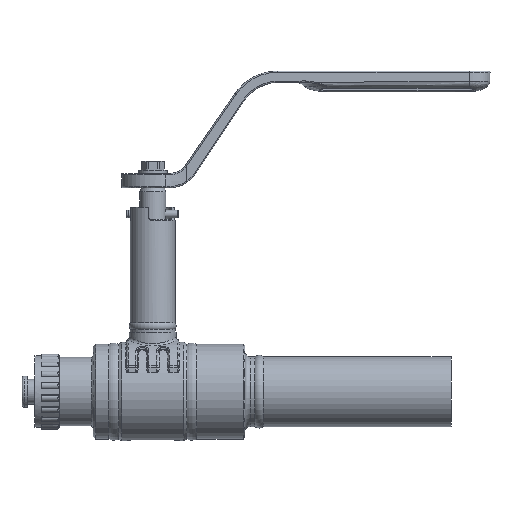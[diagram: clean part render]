
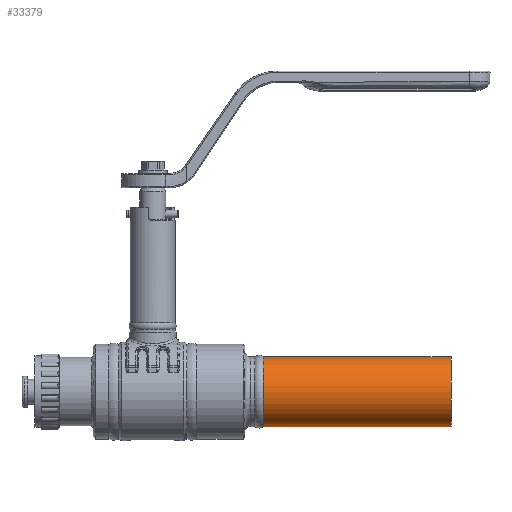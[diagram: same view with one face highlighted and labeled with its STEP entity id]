
A CAD part, front view. The second image highlights one B-rep face of the part: STEP entity #33379.
In plain terms, the highlighted cylindrical face has radius 13.45 mm (diameter 26.9 mm), a partial arc.
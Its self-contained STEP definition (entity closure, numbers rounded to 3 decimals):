
#8189=CARTESIAN_POINT('',(42.596,0.,0.));
#8190=DIRECTION('',(1.,0.,0.));
#8191=DIRECTION('',(0.,0.,1.));
#8192=AXIS2_PLACEMENT_3D('',#8189,#8190,#8191);
#8198=DIRECTION('',(-1.,0.,0.));
#8199=VECTOR('',#8198,72.404);
#8200=CARTESIAN_POINT('',(115.,0.,-13.45));
#8201=LINE('',#8200,#8199);
#8202=DIRECTION('',(-1.,0.,0.));
#8203=VECTOR('',#8202,72.404);
#8204=CARTESIAN_POINT('',(115.,0.,13.45));
#8205=LINE('',#8204,#8203);
#8206=CARTESIAN_POINT('',(115.,0.,0.));
#8207=DIRECTION('',(-1.,0.,0.));
#8208=DIRECTION('',(0.,0.,-1.));
#8209=AXIS2_PLACEMENT_3D('',#8206,#8207,#8208);
#13281=CARTESIAN_POINT('',(42.596,0.,-13.45));
#13283=VERTEX_POINT('',#13281);
#13284=CARTESIAN_POINT('',(42.596,0.,13.45));
#13285=VERTEX_POINT('',#13284);
#13288=CARTESIAN_POINT('',(115.,0.,13.45));
#13289=VERTEX_POINT('',#13288);
#13290=CARTESIAN_POINT('',(115.,0.,-13.45));
#13291=VERTEX_POINT('',#13290);
#33365=CARTESIAN_POINT('',(118.7,0.,0.));
#33366=DIRECTION('',(-1.,0.,0.));
#33367=DIRECTION('',(0.,0.,-1.));
#33368=AXIS2_PLACEMENT_3D('',#33365,#33366,#33367);
#33369=CYLINDRICAL_SURFACE('',#33368,13.45);
#33370=ORIENTED_EDGE('',*,*,#33339,.F.);
#33372=ORIENTED_EDGE('',*,*,#33371,.F.);
#33374=ORIENTED_EDGE('',*,*,#33373,.F.);
#33376=ORIENTED_EDGE('',*,*,#33375,.T.);
#33377=EDGE_LOOP('',(#33370,#33372,#33374,#33376));
#33378=FACE_OUTER_BOUND('',#33377,.F.);
#8193=CIRCLE('',#8192,13.45);
#8210=CIRCLE('',#8209,13.45);
#33339=EDGE_CURVE('',#13285,#13283,#8193,.T.);
#33371=EDGE_CURVE('',#13289,#13285,#8205,.T.);
#33373=EDGE_CURVE('',#13291,#13289,#8210,.T.);
#33375=EDGE_CURVE('',#13291,#13283,#8201,.T.);
#33379=ADVANCED_FACE('',(#33378),#33369,.T.);
